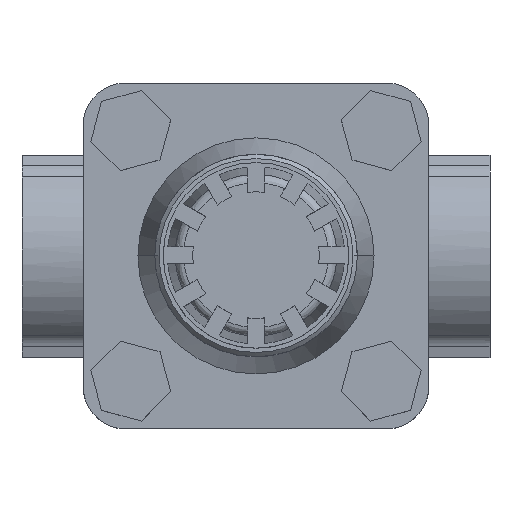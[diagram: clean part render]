
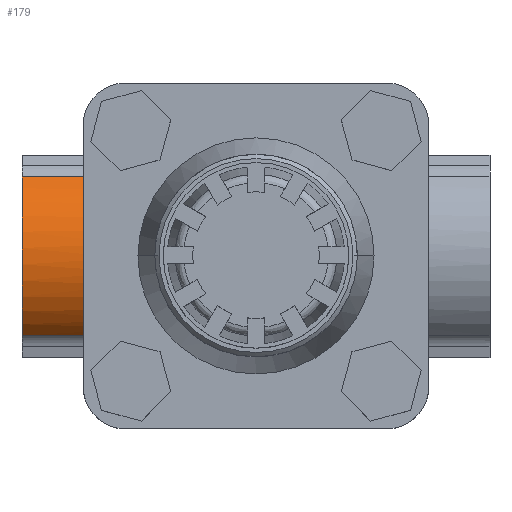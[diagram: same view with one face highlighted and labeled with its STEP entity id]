
A CAD part, top view. The second image highlights one B-rep face of the part: STEP entity #179.
In plain terms, the highlighted cylindrical face has radius 24 mm (diameter 48 mm), a partial arc.
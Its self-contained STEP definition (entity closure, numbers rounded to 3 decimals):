
#179=ADVANCED_FACE('',(#1635),#1634,.T.);
#1634=CYLINDRICAL_SURFACE('',#3016,24.);
#1635=FACE_OUTER_BOUND('',#3017,.T.);
#3013=CARTESIAN_POINT('',(-944.5,0.,0.));
#3014=DIRECTION('',(-1.,0.,0.));
#3015=DIRECTION('',(0.,-0.784,0.621));
#3016=AXIS2_PLACEMENT_3D('',#3013,#3014,#3015);
#3017=EDGE_LOOP('',(#4223,#4224,#4225,#4226));
#4223=ORIENTED_EDGE('',*,*,#4899,.F.);
#4224=ORIENTED_EDGE('',*,*,#4900,.F.);
#4225=ORIENTED_EDGE('',*,*,#4678,.T.);
#4226=ORIENTED_EDGE('',*,*,#4875,.T.);
#4678=EDGE_CURVE('',#6300,#6293,#6301,.T.);
#4875=EDGE_CURVE('',#6293,#7610,#7617,.T.);
#4899=EDGE_CURVE('',#7774,#7610,#7775,.T.);
#4900=EDGE_CURVE('',#6300,#7774,#7781,.T.);
#6293=VERTEX_POINT('',#9503);
#6300=VERTEX_POINT('',#9508);
#6301=CIRCLE('',#9512,24.);
#7610=VERTEX_POINT('',#10486);
#7617=LINE('',#10497,#10498);
#7774=VERTEX_POINT('',#10657);
#7775=(BOUNDED_CURVE() B_SPLINE_CURVE(3,(#10658,#10659,#10660,#10661,#10662,#10663,#10664,#10665,#10666,#10667,#10668,#10669,#10670,#10671,#10672,#10673,#10674,#10675,#10676,#10677,#10678,#10679,#10680,#10681,#10682,#10683,#10684,#10685,#10686,#10687,#10688,#10689,#10690,#10691,#10692,#10693,#10694,#10695,#10696,#10697),.UNSPECIFIED.,.F.,.F.) B_SPLINE_CURVE_WITH_KNOTS((4,2,2,2,2,2,2,2,2,2,2,2,2,2,2,2,2,2,2,4),(0.037,0.04,0.041,0.042,0.048,0.049,0.051,0.054,0.057,0.058,0.059,0.062,0.065,0.068,0.069,0.071,0.076,0.078,0.079,0.082),.UNSPECIFIED.) CURVE() GEOMETRIC_REPRESENTATION_ITEM() RATIONAL_B_SPLINE_CURVE((1.,1.,1.,1.,1.,1.,1.,1.,1.,1.,1.,1.,1.,1.,1.,1.,1.,1.,1.,1.,1.,1.,1.,1.,1.,1.,1.,1.,1.,1.,1.,1.,1.,1.,1.,1.,1.,1.,1.,1.)) REPRESENTATION_ITEM('') );
#7781=LINE('',#10698,#10699);
#9503=CARTESIAN_POINT('',(-55.5,-18.805,14.912));
#9508=CARTESIAN_POINT('',(-55.5,18.805,14.912));
#9509=CARTESIAN_POINT('',(-55.5,0.,0.));
#9510=DIRECTION('',(1.,0.,0.));
#9511=DIRECTION('',(0.,0.,-1.));
#9512=AXIS2_PLACEMENT_3D('',#9509,#9510,#9511);
#10486=CARTESIAN_POINT('',(-24.645,-18.805,14.912));
#10497=CARTESIAN_POINT('',(-55.5,-18.805,14.912));
#10498=VECTOR('',#10499,30.855);
#10499=DIRECTION('',(1.,0.,0.));
#10657=CARTESIAN_POINT('',(-24.645,18.805,14.912));
#10658=CARTESIAN_POINT('',(-24.645,18.805,14.912));
#10659=CARTESIAN_POINT('',(-25.05,18.275,15.581));
#10660=CARTESIAN_POINT('',(-25.454,17.71,16.22));
#10661=CARTESIAN_POINT('',(-26.051,16.808,17.137));
#10662=CARTESIAN_POINT('',(-26.248,16.498,17.436));
#10663=CARTESIAN_POINT('',(-26.639,15.858,18.019));
#10664=CARTESIAN_POINT('',(-26.833,15.528,18.305));
#10665=CARTESIAN_POINT('',(-27.782,13.841,19.684));
#10666=CARTESIAN_POINT('',(-28.475,12.374,20.643));
#10667=CARTESIAN_POINT('',(-29.217,10.369,21.649));
#10668=CARTESIAN_POINT('',(-29.36,9.96,21.841));
#10669=CARTESIAN_POINT('',(-29.631,9.123,22.203));
#10670=CARTESIAN_POINT('',(-29.759,8.694,22.374));
#10671=CARTESIAN_POINT('',(-30.117,7.4,22.849));
#10672=CARTESIAN_POINT('',(-30.321,6.517,23.117));
#10673=CARTESIAN_POINT('',(-30.653,4.712,23.551));
#10674=CARTESIAN_POINT('',(-30.782,3.79,23.718));
#10675=CARTESIAN_POINT('',(-30.913,2.374,23.887));
#10676=CARTESIAN_POINT('',(-30.945,1.899,23.929));
#10677=CARTESIAN_POINT('',(-30.989,0.954,23.986));
#10678=CARTESIAN_POINT('',(-31.,0.482,24.));
#10679=CARTESIAN_POINT('',(-31.,-0.932,24.));
#10680=CARTESIAN_POINT('',(-30.958,-1.871,23.946));
#10681=CARTESIAN_POINT('',(-30.787,-3.744,23.725));
#10682=CARTESIAN_POINT('',(-30.658,-4.683,23.557));
#10683=CARTESIAN_POINT('',(-30.325,-6.498,23.122));
#10684=CARTESIAN_POINT('',(-30.122,-7.381,22.855));
#10685=CARTESIAN_POINT('',(-29.766,-8.671,22.384));
#10686=CARTESIAN_POINT('',(-29.639,-9.095,22.214));
#10687=CARTESIAN_POINT('',(-29.369,-9.933,21.853));
#10688=CARTESIAN_POINT('',(-29.225,-10.347,21.66));
#10689=CARTESIAN_POINT('',(-28.479,-12.366,20.648));
#10690=CARTESIAN_POINT('',(-27.783,-13.838,19.686));
#10691=CARTESIAN_POINT('',(-26.834,-15.527,18.306));
#10692=CARTESIAN_POINT('',(-26.64,-15.857,18.02));
#10693=CARTESIAN_POINT('',(-26.249,-16.497,17.437));
#10694=CARTESIAN_POINT('',(-26.051,-16.807,17.138));
#10695=CARTESIAN_POINT('',(-25.453,-17.71,16.22));
#10696=CARTESIAN_POINT('',(-25.049,-18.275,15.581));
#10697=CARTESIAN_POINT('',(-24.645,-18.805,14.912));
#10698=CARTESIAN_POINT('',(-55.5,18.805,14.912));
#10699=VECTOR('',#10700,30.855);
#10700=DIRECTION('',(1.,0.,0.));
